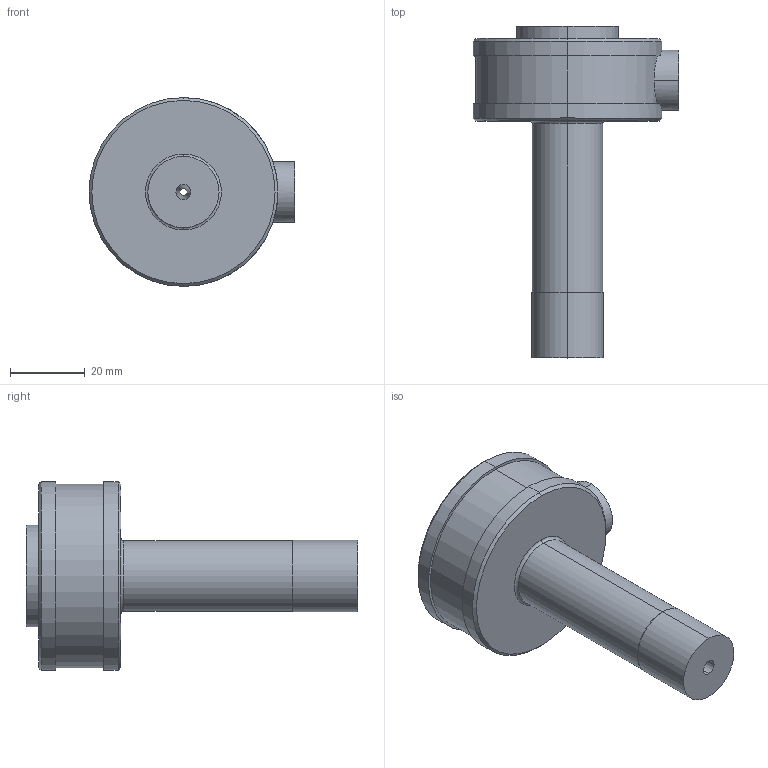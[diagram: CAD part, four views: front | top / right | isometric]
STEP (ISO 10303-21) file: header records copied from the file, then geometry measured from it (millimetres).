
FILE_DESCRIPTION (( 'STEP AP203' ), '1' );
FILE_NAME ('SB030012.STEP', '2009-05-05T17:39:37', ( 'Frank J. Eigler' ), ( 'DME' ), 'SwSTEP 2.0', 'SolidWorks 2009', '' );
FILE_SCHEMA (( 'CONFIG_CONTROL_DESIGN' ));
Length unit declared in the file: inch
Products named in the file (1): SB030012
Bounding box: 55.12 x 88.8 x 50.55 mm (x, y, z)
Volume: 61808.8 mm3; surface area: 13040.2 mm2
Topology: 1 solids, 1 shells, 37 faces, 92 edges, 58 vertices
Faces by surface type: cylinder 17, plane 8, cone 6, sphere 4, torus 2
Entity records: 1277 total; most frequent: CARTESIAN_POINT 278, DIRECTION 218, ORIENTED_EDGE 180, AXIS2_PLACEMENT_3D 96, EDGE_CURVE 90, VERTEX_POINT 58, CIRCLE 58, EDGE_LOOP 42
